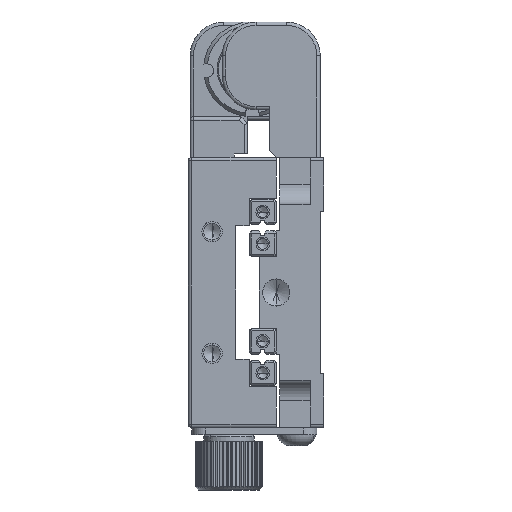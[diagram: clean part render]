
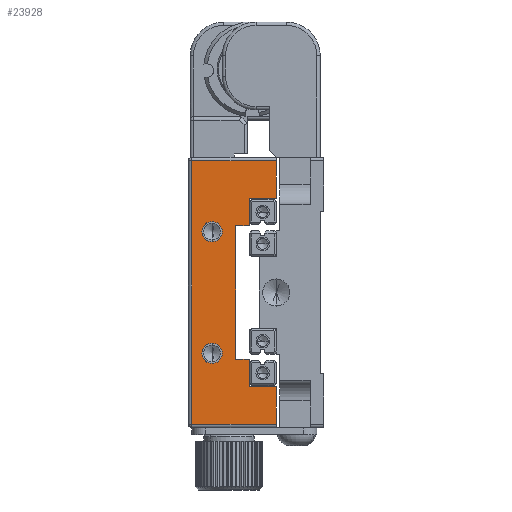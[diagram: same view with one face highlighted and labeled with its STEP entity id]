
A CAD part, left-side view. The second image highlights one B-rep face of the part: STEP entity #23928.
In plain terms, the highlighted planar face has unit normal (-1, 0, 0).
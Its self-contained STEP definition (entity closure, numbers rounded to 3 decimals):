
#939 = LINE ( 'NONE', #29503, #7628 ) ;
#2658 = DIRECTION ( 'NONE',  ( -1., 0., 0. ) ) ;
#2995 = DIRECTION ( 'NONE',  ( 0., 0., -1. ) ) ;
#4102 = VERTEX_POINT ( 'NONE', #15986 ) ;
#4262 = VERTEX_POINT ( 'NONE', #32370 ) ;
#5226 = VERTEX_POINT ( 'NONE', #53169 ) ;
#5955 = VECTOR ( 'NONE', #9006, 1000. ) ;
#6931 = VERTEX_POINT ( 'NONE', #45586 ) ;
#7116 = EDGE_CURVE ( 'NONE', #44460, #4102, #48353, .T. ) ;
#7628 = VECTOR ( 'NONE', #58083, 1000. ) ;
#7738 = CARTESIAN_POINT ( 'NONE',  ( 241.321, 6.5, 0.5 ) ) ;
#8025 = DIRECTION ( 'NONE',  ( 0., -1., 0. ) ) ;
#8618 = DIRECTION ( 'NONE',  ( 1., 0., 0. ) ) ;
#8790 = VECTOR ( 'NONE', #51345, 1000. ) ;
#9006 = DIRECTION ( 'NONE',  ( 0., 1., 0. ) ) ;
#9897 = LINE ( 'NONE', #38471, #82367 ) ;
#11268 = VERTEX_POINT ( 'NONE', #48706 ) ;
#12718 = DIRECTION ( 'NONE',  ( 0., 0., -1. ) ) ;
#13029 = CARTESIAN_POINT ( 'NONE',  ( 241.321, 12.5, 29.9 ) ) ;
#13211 = VERTEX_POINT ( 'NONE', #59636 ) ;
#13225 = DIRECTION ( 'NONE',  ( 0., 0., -1. ) ) ;
#13294 = VERTEX_POINT ( 'NONE', #75088 ) ;
#15660 = FACE_OUTER_BOUND ( 'NONE', #15897, .T. ) ;
#15897 = EDGE_LOOP ( 'NONE', ( #16136, #39289, #65847, #55346, #51503, #79162, #84424, #43501, #20241, #47542, #51569, #43091 ) ) ;
#15986 = CARTESIAN_POINT ( 'NONE',  ( 241.321, 19., 0.5 ) ) ;
#16136 = ORIENTED_EDGE ( 'NONE', *, *, #40757, .T. ) ;
#17008 = LINE ( 'NONE', #45590, #20889 ) ;
#17579 = DIRECTION ( 'NONE',  ( 0., 1., 0. ) ) ;
#17654 = EDGE_CURVE ( 'NONE', #11268, #43655, #44588, .T. ) ;
#19546 = VECTOR ( 'NONE', #13225, 1000. ) ;
#20241 = ORIENTED_EDGE ( 'NONE', *, *, #56830, .T. ) ;
#20889 = VECTOR ( 'NONE', #74141, 1000. ) ;
#22748 = CARTESIAN_POINT ( 'NONE',  ( 241.321, 6.5, 40. ) ) ;
#23928 = ADVANCED_FACE ( 'NONE', ( #51289, #79846, #15660 ), #44228, .F. ) ;
#24803 = DIRECTION ( 'NONE',  ( -1., 0., 0. ) ) ;
#25139 = EDGE_LOOP ( 'NONE', ( #61419, #34864 ) ) ;
#25326 = VECTOR ( 'NONE', #8025, 1000. ) ;
#25697 = AXIS2_PLACEMENT_3D ( 'NONE', #88964, #24803, #53389 ) ;
#26727 = VECTOR ( 'NONE', #12718, 1000. ) ;
#26853 = CARTESIAN_POINT ( 'NONE',  ( 241.321, 10.5, 33.9 ) ) ;
#27211 = ORIENTED_EDGE ( 'NONE', *, *, #52522, .F. ) ;
#27320 = DIRECTION ( 'NONE',  ( 0., 0., 1. ) ) ;
#29503 = CARTESIAN_POINT ( 'NONE',  ( 241.321, 6.5, 6.1 ) ) ;
#30116 = CARTESIAN_POINT ( 'NONE',  ( 241.321, 16., 11. ) ) ;
#30222 = CARTESIAN_POINT ( 'NONE',  ( 241.321, 6.5, 39.5 ) ) ;
#31242 = DIRECTION ( 'NONE',  ( 0., 0., 1. ) ) ;
#31804 = VERTEX_POINT ( 'NONE', #7738 ) ;
#32370 = CARTESIAN_POINT ( 'NONE',  ( 241.321, 6.5, 33.9 ) ) ;
#33248 = EDGE_CURVE ( 'NONE', #13211, #5226, #43625, .T. ) ;
#34864 = ORIENTED_EDGE ( 'NONE', *, *, #40399, .F. ) ;
#35016 = CARTESIAN_POINT ( 'NONE',  ( 241.321, 16., 9.5 ) ) ;
#36697 = EDGE_CURVE ( 'NONE', #4262, #64821, #90998, .T. ) ;
#37197 = DIRECTION ( 'NONE',  ( 0., 0., -1. ) ) ;
#37923 = CIRCLE ( 'NONE', #90235, 1.5 ) ;
#38471 = CARTESIAN_POINT ( 'NONE',  ( 241.321, 6.5, 40. ) ) ;
#38580 = LINE ( 'NONE', #67159, #85645 ) ;
#39289 = ORIENTED_EDGE ( 'NONE', *, *, #17654, .F. ) ;
#40399 = EDGE_CURVE ( 'NONE', #75868, #6931, #87739, .T. ) ;
#40757 = EDGE_CURVE ( 'NONE', #13211, #43655, #77214, .T. ) ;
#41618 = DIRECTION ( 'NONE',  ( 0., 0., 1. ) ) ;
#43091 = ORIENTED_EDGE ( 'NONE', *, *, #33248, .F. ) ;
#43501 = ORIENTED_EDGE ( 'NONE', *, *, #57880, .T. ) ;
#43625 = LINE ( 'NONE', #72203, #25326 ) ;
#43655 = VERTEX_POINT ( 'NONE', #76598 ) ;
#44228 = PLANE ( 'NONE',  #83462 ) ;
#44315 = ORIENTED_EDGE ( 'NONE', *, *, #73823, .F. ) ;
#44460 = VERTEX_POINT ( 'NONE', #56193 ) ;
#44588 = LINE ( 'NONE', #73173, #5955 ) ;
#45586 = CARTESIAN_POINT ( 'NONE',  ( 241.321, 16., 12.5 ) ) ;
#45590 = CARTESIAN_POINT ( 'NONE',  ( 241.321, 19.5, 0.5 ) ) ;
#46311 = AXIS2_PLACEMENT_3D ( 'NONE', #66820, #2658, #31242 ) ;
#47380 = AXIS2_PLACEMENT_3D ( 'NONE', #30116, #58685, #87230 ) ;
#47388 = EDGE_CURVE ( 'NONE', #13294, #54959, #939, .T. ) ;
#47542 = ORIENTED_EDGE ( 'NONE', *, *, #47388, .F. ) ;
#48079 = EDGE_CURVE ( 'NONE', #63234, #44460, #53214, .T. ) ;
#48353 = LINE ( 'NONE', #76914, #26727 ) ;
#48706 = CARTESIAN_POINT ( 'NONE',  ( 241.321, 10.5, 29.9 ) ) ;
#48834 = LINE ( 'NONE', #77401, #19546 ) ;
#48886 = EDGE_LOOP ( 'NONE', ( #44315, #27211 ) ) ;
#49416 = EDGE_CURVE ( 'NONE', #5226, #13294, #38580, .T. ) ;
#51289 = FACE_BOUND ( 'NONE', #48886, .T. ) ;
#51345 = DIRECTION ( 'NONE',  ( 0., 0., 1. ) ) ;
#51503 = ORIENTED_EDGE ( 'NONE', *, *, #87684, .T. ) ;
#51569 = ORIENTED_EDGE ( 'NONE', *, *, #49416, .F. ) ;
#52522 = EDGE_CURVE ( 'NONE', #59158, #80547, #37923, .T. ) ;
#53169 = CARTESIAN_POINT ( 'NONE',  ( 241.321, 10.5, 10.1 ) ) ;
#53214 = LINE ( 'NONE', #81752, #91425 ) ;
#53389 = DIRECTION ( 'NONE',  ( 0., 0., 1. ) ) ;
#54959 = VERTEX_POINT ( 'NONE', #70287 ) ;
#55346 = ORIENTED_EDGE ( 'NONE', *, *, #36697, .F. ) ;
#55456 = DIRECTION ( 'NONE',  ( 0., 1., 0. ) ) ;
#56193 = CARTESIAN_POINT ( 'NONE',  ( 241.321, 19., 39.5 ) ) ;
#56830 = EDGE_CURVE ( 'NONE', #31804, #54959, #86889, .T. ) ;
#57880 = EDGE_CURVE ( 'NONE', #4102, #31804, #17008, .T. ) ;
#58083 = DIRECTION ( 'NONE',  ( 0., -1., 0. ) ) ;
#58399 = CARTESIAN_POINT ( 'NONE',  ( 241.321, 16., 30.5 ) ) ;
#58685 = DIRECTION ( 'NONE',  ( -1., 0., 0. ) ) ;
#59158 = VERTEX_POINT ( 'NONE', #87509 ) ;
#59636 = CARTESIAN_POINT ( 'NONE',  ( 241.321, 12.5, 10.1 ) ) ;
#60892 = VECTOR ( 'NONE', #41618, 1000. ) ;
#61419 = ORIENTED_EDGE ( 'NONE', *, *, #92362, .F. ) ;
#62614 = EDGE_CURVE ( 'NONE', #64821, #11268, #48834, .T. ) ;
#62941 = CARTESIAN_POINT ( 'NONE',  ( 241.321, 16., 29. ) ) ;
#63234 = VERTEX_POINT ( 'NONE', #30222 ) ;
#64821 = VERTEX_POINT ( 'NONE', #89880 ) ;
#65847 = ORIENTED_EDGE ( 'NONE', *, *, #62614, .F. ) ;
#66108 = CIRCLE ( 'NONE', #25697, 1.5 ) ;
#66820 = CARTESIAN_POINT ( 'NONE',  ( 241.321, 16., 11. ) ) ;
#67048 = DIRECTION ( 'NONE',  ( 0., 0., 1. ) ) ;
#67159 = CARTESIAN_POINT ( 'NONE',  ( 241.321, 10.5, 6.1 ) ) ;
#70287 = CARTESIAN_POINT ( 'NONE',  ( 241.321, 6.5, 6.1 ) ) ;
#72203 = CARTESIAN_POINT ( 'NONE',  ( 241.321, 10.5, 10.1 ) ) ;
#72793 = CARTESIAN_POINT ( 'NONE',  ( 241.321, 19.5, 40. ) ) ;
#73129 = VECTOR ( 'NONE', #55456, 1000. ) ;
#73173 = CARTESIAN_POINT ( 'NONE',  ( 241.321, 11., 29.9 ) ) ;
#73823 = EDGE_CURVE ( 'NONE', #80547, #59158, #66108, .T. ) ;
#74141 = DIRECTION ( 'NONE',  ( 0., -1., 0. ) ) ;
#75088 = CARTESIAN_POINT ( 'NONE',  ( 241.321, 10.5, 6.1 ) ) ;
#75868 = VERTEX_POINT ( 'NONE', #35016 ) ;
#76598 = CARTESIAN_POINT ( 'NONE',  ( 241.321, 12.5, 29.9 ) ) ;
#76914 = CARTESIAN_POINT ( 'NONE',  ( 241.321, 19., 0. ) ) ;
#77214 = LINE ( 'NONE', #13029, #60892 ) ;
#77401 = CARTESIAN_POINT ( 'NONE',  ( 241.321, 10.5, 29.9 ) ) ;
#79162 = ORIENTED_EDGE ( 'NONE', *, *, #48079, .T. ) ;
#79846 = FACE_BOUND ( 'NONE', #25139, .T. ) ;
#80547 = VERTEX_POINT ( 'NONE', #58399 ) ;
#81752 = CARTESIAN_POINT ( 'NONE',  ( 241.321, 19.5, 39.5 ) ) ;
#82367 = VECTOR ( 'NONE', #67048, 1000. ) ;
#83462 = AXIS2_PLACEMENT_3D ( 'NONE', #72793, #8618, #37197 ) ;
#84424 = ORIENTED_EDGE ( 'NONE', *, *, #7116, .T. ) ;
#85645 = VECTOR ( 'NONE', #2995, 1000. ) ;
#86669 = CIRCLE ( 'NONE', #46311, 1.5 ) ;
#86889 = LINE ( 'NONE', #22748, #8790 ) ;
#87230 = DIRECTION ( 'NONE',  ( 0., 0., 1. ) ) ;
#87509 = CARTESIAN_POINT ( 'NONE',  ( 241.321, 16., 27.5 ) ) ;
#87684 = EDGE_CURVE ( 'NONE', #4262, #63234, #9897, .T. ) ;
#87739 = CIRCLE ( 'NONE', #47380, 1.5 ) ;
#88964 = CARTESIAN_POINT ( 'NONE',  ( 241.321, 16., 29. ) ) ;
#89880 = CARTESIAN_POINT ( 'NONE',  ( 241.321, 10.5, 33.9 ) ) ;
#90235 = AXIS2_PLACEMENT_3D ( 'NONE', #62941, #91467, #27320 ) ;
#90998 = LINE ( 'NONE', #26853, #73129 ) ;
#91425 = VECTOR ( 'NONE', #17579, 1000. ) ;
#91467 = DIRECTION ( 'NONE',  ( -1., 0., 0. ) ) ;
#92362 = EDGE_CURVE ( 'NONE', #6931, #75868, #86669, .T. ) ;
